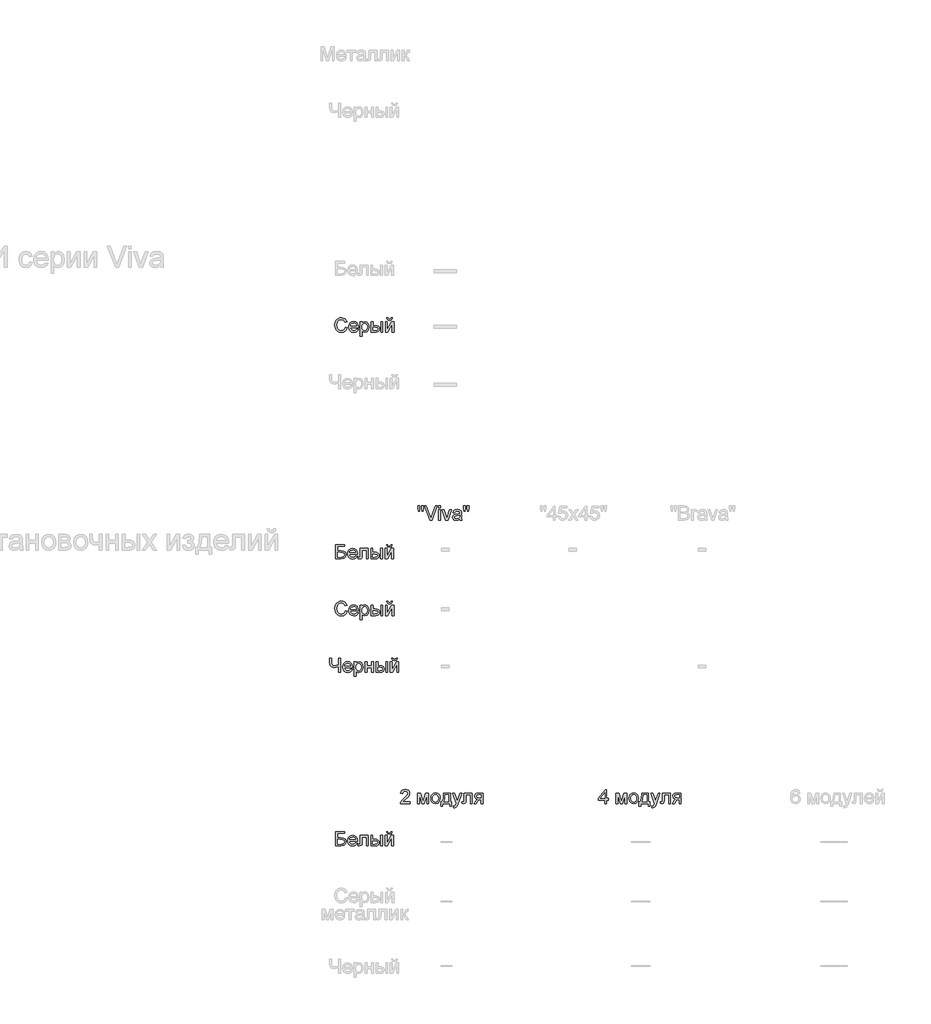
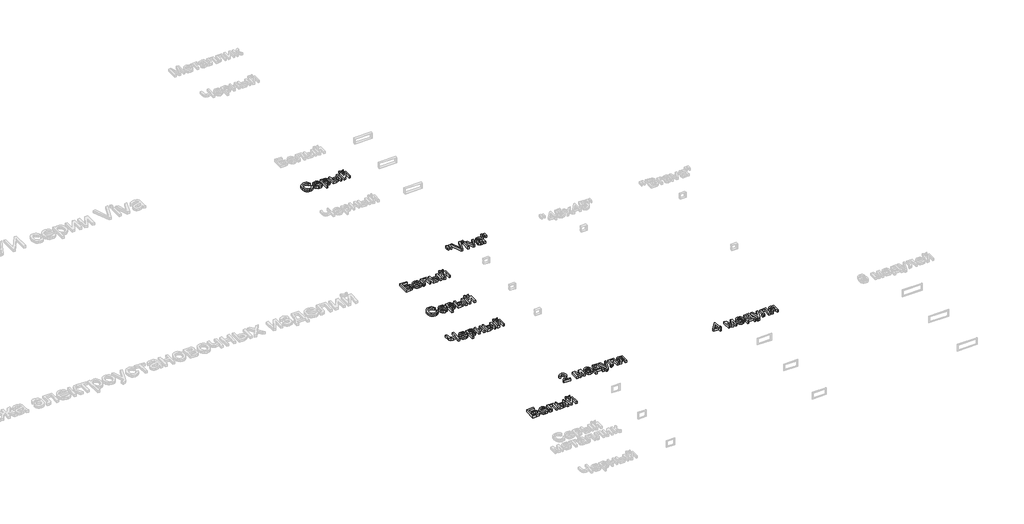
# One storey, part 20 of 48: 8 proxies.
"""IFC4 building model written with IfcOpenShell, lengths in millimetres."""

from ifc_helpers import new_model, si_unit, origin, origin_with_axes, place, context, project, spatial, polyline, outline, extrude, element, save

model = new_model("IFC4")

# Units and contexts
model_context = context("Model", 3, world=origin())
ifc_project = project(units=[si_unit("LENGTHUNIT", "METRE", prefix="MILLI")], contexts=[model_context])

# Site, building, storey
site = spatial("IfcSite", under=ifc_project)
building = spatial("IfcBuilding", under=site)
storey = spatial("IfcBuildingStorey", under=building, Name="Этаж 01", Elevation=0.0)

# Proxies
placement = place(None, origin())
element("IfcBuildingElementProxy", 1, Name="100 мм Arial", ObjectType="100 мм Arial", at=placement, inside=storey, context=model_context, shape_type="SweptSolid", body=[
    extrude(outline(polyline([(76590.4328092, -4006.6272921), (76602.9898479, -4009.8646536), (76597.1957065, -4024.49716), (76588.1028899, -4035.1871976), (76576.1589878, -4041.7263001), (76561.8115899, -4043.9060009), (76547.2465286, -4042.2566633), (76535.6797055, -4037.3086505), (76526.8137495, -4029.2336407), (76520.3512891, -4018.2033122), (76515.0905766, -3991.3479265), (76516.5774329, -3976.7000917), (76521.0380021, -3964.0510825), (76528.2392922, -3953.8025032), (76537.9483112, -3946.3559585), (76549.4630176, -3941.8218129), (76562.0813701, -3940.3104311), (76575.8493537, -3942.266337), (76587.2322358, -3948.1340548), (76595.874397, -3957.5518339), (76601.4202181, -3970.1579236), (76588.8631793, -3973.1500305), (76578.5624835, -3957.7112494), (76561.5908607, -3952.8674698), (76541.9459622, -3958.238547), (76530.8481887, -3972.6595212), (76527.6476153, -3991.3234011), (76531.4367999, -4012.9548624), (76543.2335492, -4026.7749627), (76560.5607912, -4031.3489621), (76571.0423623, -4029.791595), (76579.776494, -4025.1194937), (76586.3707788, -4017.381709), (76590.4328092, -4006.6272921)])), origin_with_axes(), (0.0, 0.0, 1.0), 20.0),
    extrude(outline(polyline([(76670.3367785, -4020.3615532), (76682.6485626, -4021.9311831), (76678.2125189, -4031.2079407), (76671.1338562, -4038.1425163), (76661.57199, -4042.4651297), (76649.6863359, -4043.9060009), (76634.9526619, -4041.4197317), (76623.6157651, -4033.9609243), (76616.3868839, -4022.0139565), (76613.9772569, -4006.0632063), (76616.4114094, -3989.5759616), (76623.713867, -3977.2457834), (76634.8974796, -3969.5570497), (76648.9750973, -3966.9941384), (76662.6143223, -3969.5509183), (76673.5128264, -3977.2212579), (76680.6589342, -3989.5269106), (76683.0409701, -4005.9896299), (76682.9673937, -4009.3741443), (76626.5342956, -4009.3741443), (76628.7078651, -4018.7735293), (76633.7570455, -4025.6835794), (76641.0441746, -4029.9326164), (76649.9315905, -4031.3489621), (76662.2433746, -4028.7247372), (76670.3367785, -4020.3615532)]), holes=[polyline([(76626.5342956, -3996.8171055), (76670.4839313, -3996.8171055), (76665.4562107, -3985.4372891), (76658.135359, -3981.0227052), (76648.9260464, -3979.5511772), (76633.4627399, -3984.247804), (76628.5975005, -3989.7384428), (76626.5342956, -3996.8171055)])]), origin_with_axes(), (0.0, 0.0, 1.0), 20.0),
    extrude(outline(polyline([(76695.5980089, -4070.5897083), (76695.5980089, -3968.5637683), (76708.1550476, -3968.5637683), (76708.1550476, -3980.8755524), (76716.8370627, -3970.4644919), (76728.5602356, -3966.9941384), (76744.4772633, -3971.8501808), (76754.876061, -3985.535391), (76758.3832027, -4004.8859839), (76754.4223399, -4025.2298583), (76742.9198962, -4039.0867468), (76727.0396567, -4043.9060009), (76716.1135614, -4040.6809021), (76708.1550476, -4032.5261845), (76708.1550476, -4070.5897083), (76695.5980089, -4070.5897083)]), holes=[polyline([(76708.1550476, -4006.0386809), (76709.5131453, -4017.2958699), (76713.5874384, -4025.1685446), (76719.5992434, -4029.8038577), (76726.7698766, -4031.3489621), (76734.0570058, -4029.7486754), (76740.2220949, -4024.9478154), (76744.4251467, -4016.7869665), (76745.8261639, -4005.1067131), (76744.4588692, -3993.9108378), (76740.3569849, -3985.9277985), (76734.354377, -3981.1453325), (76727.2849114, -3979.5511772), (76720.1878545, -3981.2465001), (76713.9553204, -3986.3324687), (76709.6051158, -3994.6496674), (76708.1550476, -4006.0386809)])]), origin_with_axes(), (0.0, 0.0, 1.0), 20.0),
    extrude(outline(polyline([(76841.5735845, -3968.5637683), (76854.1306233, -3968.5637683), (76854.1306233, -4042.3363711), (76841.5735845, -4042.3363711), (76841.5735845, -3968.5637683)])), origin_with_axes(), (0.0, 0.0, 1.0), 20.0),
    extrude(outline(polyline([(76772.5098713, -3968.5637683), (76785.0669101, -3968.5637683), (76785.0669101, -3995.2474757), (76800.5915303, -3995.2474757), (76814.010026, -3996.8201712), (76823.952037, -4001.5382578), (76830.1048633, -4009.0215907), (76832.1558055, -4018.8900252), (76830.4359571, -4027.875543), (76825.2764122, -4035.4569777), (76816.3399454, -4040.6165227), (76803.2893316, -4042.3363711), (76772.5098713, -4042.3363711), (76772.5098713, -3968.5637683)]), holes=[polyline([(76785.0669101, -4029.7793323), (76797.9673054, -4029.7793323), (76814.620097, -4027.1428447), (76819.5987667, -4018.9145507), (76815.907684, -4011.1890288), (76799.6105116, -4007.8045144), (76785.0669101, -4007.8045144), (76785.0669101, -4029.7793323)])]), origin_with_axes(), (0.0, 0.0, 1.0), 20.0),
    extrude(outline(polyline([(76913.7765575, -3941.8800609), (76923.1943365, -3941.8800609), (76917.0997581, -3955.847314), (76903.5739635, -3960.7156191), (76888.93226, -3955.8841022), (76882.3839605, -3941.8800609), (76891.8017396, -3941.8800609), (76895.3334068, -3948.9556579), (76902.445792, -3951.29784), (76910.2448903, -3949.0292343), (76913.7765575, -3941.8800609)])), origin_with_axes(), (0.0, 0.0, 1.0), 20.0),
    extrude(outline(polyline([(76872.9661815, -3968.5637683), (76885.5232202, -3968.5637683), (76885.5232202, -4024.8251881), (76916.3762569, -3968.5637683), (76932.6121156, -3968.5637683), (76932.6121156, -4042.3363711), (76920.0550768, -4042.3363711), (76920.0550768, -3986.4183078), (76889.3982439, -4042.3363711), (76872.9661815, -4042.3363711), (76872.9661815, -3968.5637683)])), origin_with_axes(), (0.0, 0.0, 1.0), 20.0),
])
element("IfcBuildingElementProxy", 2, Name="100 мм Arial", ObjectType="100 мм Arial", at=placement, inside=storey, context=model_context, shape_type="SweptSolid", body=[
    extrude(outline(polyline([(76522.1539109, -5541.8800609), (76584.9391047, -5541.8800609), (76584.9391047, -5554.4370997), (76534.7109496, -5554.4370997), (76534.7109496, -5584.2600667), (76558.2308719, -5584.2600667), (76578.9548909, -5586.8107152), (76591.2912005, -5596.4492235), (76595.9265136, -5612.9303369), (76592.6278384, -5627.2409465), (76582.7808637, -5638.1179908), (76560.4872148, -5642.3363711), (76522.1539109, -5642.3363711), (76522.1539109, -5541.8800609)]), holes=[polyline([(76534.7109496, -5629.7793323), (76561.6153862, -5629.7793323), (76577.9248213, -5625.6345285), (76582.0083115, -5620.4535237), (76583.3694749, -5613.200117), (76580.2547406, -5603.365405), (76571.5849883, -5598.1169552), (76552.663591, -5596.8171055), (76534.7109496, -5596.8171055), (76534.7109496, -5629.7793323)])]), origin_with_axes(), (0.0, 0.0, 1.0), 20.0),
    extrude(outline(polyline([(76663.2734442, -5620.3615532), (76675.5852283, -5621.9311831), (76671.1491846, -5631.2079407), (76664.0705219, -5638.1425163), (76654.5086557, -5642.4651297), (76642.6230015, -5643.9060009), (76627.8893276, -5641.4197317), (76616.5524308, -5633.9609243), (76609.3235496, -5622.0139565), (76606.9139225, -5606.0632063), (76609.3480751, -5589.5759616), (76616.6505327, -5577.2457834), (76627.8341453, -5569.5570497), (76641.911763, -5566.9941384), (76655.550988, -5569.5509183), (76666.4494921, -5577.2212579), (76673.5955999, -5589.5269106), (76675.9776358, -5605.9896299), (76675.9040594, -5609.3741443), (76619.4709613, -5609.3741443), (76621.6445308, -5618.7735293), (76626.6937112, -5625.6835794), (76633.9808403, -5629.9326164), (76642.8682562, -5631.3489621), (76655.1800403, -5628.7247372), (76663.2734442, -5620.3615532)]), holes=[polyline([(76619.4709613, -5596.8171055), (76663.420597, -5596.8171055), (76658.3928764, -5585.4372891), (76651.0720247, -5581.0227052), (76641.8627121, -5579.5511772), (76626.3994056, -5584.247804), (76621.5341662, -5589.7384428), (76619.4709613, -5596.8171055)])]), origin_with_axes(), (0.0, 0.0, 1.0), 20.0),
    extrude(outline(polyline([(76694.8131939, -5568.5637683), (76751.3198684, -5568.5637683), (76751.3198684, -5642.2627947), (76738.7628296, -5642.2627947), (76738.7628296, -5581.1208071), (76707.3702327, -5581.1208071), (76707.3702327, -5616.3148513), (76706.5241041, -5632.55071), (76701.8765282, -5639.4055778), (76690.8891193, -5642.3363711), (76680.6865253, -5641.6987089), (76680.6865253, -5629.7793323), (76686.3028571, -5629.7793323), (76691.9805026, -5629.0067801), (76694.2491082, -5626.5542335), (76694.8131939, -5615.6036127), (76694.8131939, -5568.5637683)])), origin_with_axes(), (0.0, 0.0, 1.0), 20.0),
    extrude(outline(polyline([(76839.2191398, -5568.5637683), (76851.7761785, -5568.5637683), (76851.7761785, -5642.3363711), (76839.2191398, -5642.3363711), (76839.2191398, -5568.5637683)])), origin_with_axes(), (0.0, 0.0, 1.0), 20.0),
    extrude(outline(polyline([(76770.1554265, -5568.5637683), (76782.7124653, -5568.5637683), (76782.7124653, -5595.2474757), (76798.2370855, -5595.2474757), (76811.6555813, -5596.8201712), (76821.5975922, -5601.5382578), (76827.7504186, -5609.0215907), (76829.8013607, -5618.8900252), (76828.0815124, -5627.875543), (76822.9219674, -5635.4569777), (76813.9855006, -5640.6165227), (76800.9348868, -5642.3363711), (76770.1554265, -5642.3363711), (76770.1554265, -5568.5637683)]), holes=[polyline([(76782.7124653, -5629.7793323), (76795.6128606, -5629.7793323), (76812.2656523, -5627.1428447), (76817.2443219, -5618.9145507), (76813.5532392, -5611.1890288), (76797.2560669, -5607.8045144), (76782.7124653, -5607.8045144), (76782.7124653, -5629.7793323)])]), origin_with_axes(), (0.0, 0.0, 1.0), 20.0),
    extrude(outline(polyline([(76870.6117367, -5568.5637683), (76883.1687755, -5568.5637683), (76883.1687755, -5624.8251881), (76914.0218121, -5568.5637683), (76930.2576708, -5568.5637683), (76930.2576708, -5642.3363711), (76917.7006321, -5642.3363711), (76917.7006321, -5586.4183078), (76887.0437991, -5642.3363711), (76870.6117367, -5642.3363711), (76870.6117367, -5568.5637683)])), origin_with_axes(), (0.0, 0.0, 1.0), 20.0),
    extrude(outline(polyline([(76911.4221127, -5541.8800609), (76920.8398918, -5541.8800609), (76914.7453134, -5555.847314), (76901.2195187, -5560.7156191), (76886.5778153, -5555.8841022), (76880.0295158, -5541.8800609), (76889.4472948, -5541.8800609), (76892.978962, -5548.9556579), (76900.0913472, -5551.29784), (76907.8904455, -5549.0292343), (76911.4221127, -5541.8800609)])), origin_with_axes(), (0.0, 0.0, 1.0), 20.0),
])
element("IfcBuildingElementProxy", 3, Name="100 мм Arial", ObjectType="100 мм Arial", at=placement, inside=storey, context=model_context, shape_type="SweptSolid", body=[
    extrude(outline(polyline([(76590.4328092, -6006.6272921), (76602.9898479, -6009.8646536), (76597.1957065, -6024.49716), (76588.1028899, -6035.1871976), (76576.1589878, -6041.7263001), (76561.8115899, -6043.9060009), (76547.2465286, -6042.2566633), (76535.6797055, -6037.3086505), (76526.8137495, -6029.2336407), (76520.3512891, -6018.2033122), (76515.0905766, -5991.3479265), (76516.5774329, -5976.7000917), (76521.0380021, -5964.0510825), (76528.2392922, -5953.8025032), (76537.9483112, -5946.3559585), (76549.4630176, -5941.8218129), (76562.0813701, -5940.3104311), (76575.8493537, -5942.266337), (76587.2322358, -5948.1340548), (76595.874397, -5957.5518339), (76601.4202181, -5970.1579236), (76588.8631793, -5973.1500305), (76578.5624835, -5957.7112494), (76561.5908607, -5952.8674698), (76541.9459622, -5958.238547), (76530.8481887, -5972.6595212), (76527.6476153, -5991.3234011), (76531.4367999, -6012.9548624), (76543.2335492, -6026.7749627), (76560.5607912, -6031.3489621), (76571.0423623, -6029.791595), (76579.776494, -6025.1194937), (76586.3707788, -6017.381709), (76590.4328092, -6006.6272921)])), origin_with_axes(), (0.0, 0.0, 1.0), 20.0),
    extrude(outline(polyline([(76670.3367785, -6020.3615532), (76682.6485626, -6021.9311831), (76678.2125189, -6031.2079407), (76671.1338562, -6038.1425163), (76661.57199, -6042.4651297), (76649.6863359, -6043.9060009), (76634.9526619, -6041.4197317), (76623.6157651, -6033.9609243), (76616.3868839, -6022.0139565), (76613.9772569, -6006.0632063), (76616.4114094, -5989.5759616), (76623.713867, -5977.2457834), (76634.8974796, -5969.5570497), (76648.9750973, -5966.9941384), (76662.6143223, -5969.5509183), (76673.5128264, -5977.2212579), (76680.6589342, -5989.5269106), (76683.0409701, -6005.9896299), (76682.9673937, -6009.3741443), (76626.5342956, -6009.3741443), (76628.7078651, -6018.7735293), (76633.7570455, -6025.6835794), (76641.0441746, -6029.9326164), (76649.9315905, -6031.3489621), (76662.2433746, -6028.7247372), (76670.3367785, -6020.3615532)]), holes=[polyline([(76626.5342956, -5996.8171055), (76670.4839313, -5996.8171055), (76665.4562107, -5985.4372891), (76658.135359, -5981.0227052), (76648.9260464, -5979.5511772), (76633.4627399, -5984.247804), (76628.5975005, -5989.7384428), (76626.5342956, -5996.8171055)])]), origin_with_axes(), (0.0, 0.0, 1.0), 20.0),
    extrude(outline(polyline([(76695.5980089, -6070.5897083), (76695.5980089, -5968.5637683), (76708.1550476, -5968.5637683), (76708.1550476, -5980.8755524), (76716.8370627, -5970.4644919), (76728.5602356, -5966.9941384), (76744.4772633, -5971.8501808), (76754.876061, -5985.535391), (76758.3832027, -6004.8859839), (76754.4223399, -6025.2298583), (76742.9198962, -6039.0867468), (76727.0396567, -6043.9060009), (76716.1135614, -6040.6809021), (76708.1550476, -6032.5261845), (76708.1550476, -6070.5897083), (76695.5980089, -6070.5897083)]), holes=[polyline([(76708.1550476, -6006.0386809), (76709.5131453, -6017.2958699), (76713.5874384, -6025.1685446), (76719.5992434, -6029.8038577), (76726.7698766, -6031.3489621), (76734.0570058, -6029.7486754), (76740.2220949, -6024.9478154), (76744.4251467, -6016.7869665), (76745.8261639, -6005.1067131), (76744.4588692, -5993.9108378), (76740.3569849, -5985.9277985), (76734.354377, -5981.1453325), (76727.2849114, -5979.5511772), (76720.1878545, -5981.2465001), (76713.9553204, -5986.3324687), (76709.6051158, -5994.6496674), (76708.1550476, -6006.0386809)])]), origin_with_axes(), (0.0, 0.0, 1.0), 20.0),
    extrude(outline(polyline([(76841.5735845, -5968.5637683), (76854.1306233, -5968.5637683), (76854.1306233, -6042.3363711), (76841.5735845, -6042.3363711), (76841.5735845, -5968.5637683)])), origin_with_axes(), (0.0, 0.0, 1.0), 20.0),
    extrude(outline(polyline([(76772.5098713, -5968.5637683), (76785.0669101, -5968.5637683), (76785.0669101, -5995.2474757), (76800.5915303, -5995.2474757), (76814.010026, -5996.8201712), (76823.952037, -6001.5382578), (76830.1048633, -6009.0215907), (76832.1558055, -6018.8900252), (76830.4359571, -6027.875543), (76825.2764122, -6035.4569777), (76816.3399454, -6040.6165227), (76803.2893316, -6042.3363711), (76772.5098713, -6042.3363711), (76772.5098713, -5968.5637683)]), holes=[polyline([(76785.0669101, -6029.7793323), (76797.9673054, -6029.7793323), (76814.620097, -6027.1428447), (76819.5987667, -6018.9145507), (76815.907684, -6011.1890288), (76799.6105116, -6007.8045144), (76785.0669101, -6007.8045144), (76785.0669101, -6029.7793323)])]), origin_with_axes(), (0.0, 0.0, 1.0), 20.0),
    extrude(outline(polyline([(76913.7765575, -5941.8800609), (76923.1943365, -5941.8800609), (76917.0997581, -5955.847314), (76903.5739635, -5960.7156191), (76888.93226, -5955.8841022), (76882.3839605, -5941.8800609), (76891.8017396, -5941.8800609), (76895.3334068, -5948.9556579), (76902.445792, -5951.29784), (76910.2448903, -5949.0292343), (76913.7765575, -5941.8800609)])), origin_with_axes(), (0.0, 0.0, 1.0), 20.0),
    extrude(outline(polyline([(76872.9661815, -5968.5637683), (76885.5232202, -5968.5637683), (76885.5232202, -6024.8251881), (76916.3762569, -5968.5637683), (76932.6121156, -5968.5637683), (76932.6121156, -6042.3363711), (76920.0550768, -6042.3363711), (76920.0550768, -5986.4183078), (76889.3982439, -6042.3363711), (76872.9661815, -6042.3363711), (76872.9661815, -5968.5637683)])), origin_with_axes(), (0.0, 0.0, 1.0), 20.0),
])
element("IfcBuildingElementProxy", 4, Name="100 мм Arial", ObjectType="100 мм Arial", at=placement, inside=storey, context=model_context, shape_type="SweptSolid", body=[
    extrude(outline(polyline([(76555.9009525, -6442.3363711), (76543.3439138, -6442.3363711), (76543.3439138, -6402.1146062), (76512.2456225, -6409.3741443), (76493.8883109, -6404.4077373), (76483.2442585, -6391.8016476), (76480.5587199, -6371.8011298), (76480.5587199, -6341.8800609), (76493.1157587, -6341.8800609), (76493.1157587, -6370.1088727), (76494.6240749, -6383.686784), (76499.1490234, -6391.6544948), (76513.643574, -6396.8171055), (76543.3439138, -6390.5876371), (76543.3439138, -6341.8800609), (76555.9009525, -6341.8800609), (76555.9009525, -6442.3363711)])), origin_with_axes(), (0.0, 0.0, 1.0), 20.0),
    extrude(outline(polyline([(76627.9567727, -6420.3615532), (76640.2685568, -6421.9311831), (76635.8325131, -6431.2079407), (76628.7538503, -6438.1425163), (76619.1919841, -6442.4651297), (76607.30633, -6443.9060009), (76592.5726561, -6441.4197317), (76581.2357593, -6433.9609243), (76574.0068781, -6422.0139565), (76571.597251, -6406.0632063), (76574.0314035, -6389.5759616), (76581.3338611, -6377.2457834), (76592.5174738, -6369.5570497), (76606.5950915, -6366.9941384), (76620.2343165, -6369.5509183), (76631.1328206, -6377.2212579), (76638.2789283, -6389.5269106), (76640.6609642, -6405.9896299), (76640.5873878, -6409.3741443), (76584.1542898, -6409.3741443), (76586.3278592, -6418.7735293), (76591.3770396, -6425.6835794), (76598.6641688, -6429.9326164), (76607.5515847, -6431.3489621), (76619.8633688, -6428.7247372), (76627.9567727, -6420.3615532)]), holes=[polyline([(76584.1542898, -6396.8171055), (76628.1039255, -6396.8171055), (76623.0762049, -6385.4372891), (76615.7553532, -6381.0227052), (76606.5460406, -6379.5511772), (76591.082734, -6384.247804), (76586.2174946, -6389.7384428), (76584.1542898, -6396.8171055)])]), origin_with_axes(), (0.0, 0.0, 1.0), 20.0),
    extrude(outline(polyline([(76653.218003, -6470.5897083), (76653.218003, -6368.5637683), (76665.7750418, -6368.5637683), (76665.7750418, -6380.8755524), (76674.4570569, -6370.4644919), (76686.1802298, -6366.9941384), (76702.0972574, -6371.8501808), (76712.4960552, -6385.535391), (76716.0031969, -6404.8859839), (76712.042334, -6425.2298583), (76700.5398903, -6439.0867468), (76684.6596509, -6443.9060009), (76673.7335556, -6440.6809021), (76665.7750418, -6432.5261845), (76665.7750418, -6470.5897083), (76653.218003, -6470.5897083)]), holes=[polyline([(76665.7750418, -6406.0386809), (76667.1331395, -6417.2958699), (76671.2074326, -6425.1685446), (76677.2192375, -6429.8038577), (76684.3898707, -6431.3489621), (76691.6769999, -6429.7486754), (76697.842089, -6424.9478154), (76702.0451408, -6416.7869665), (76703.4461581, -6405.1067131), (76702.0788633, -6393.9108378), (76697.9769791, -6385.9277985), (76691.9743712, -6381.1453325), (76684.9049055, -6379.5511772), (76677.8078487, -6381.2465001), (76671.5753146, -6386.3324687), (76667.22511, -6394.6496674), (76665.7750418, -6406.0386809)])]), origin_with_axes(), (0.0, 0.0, 1.0), 20.0),
    extrude(outline(polyline([(76730.1298655, -6368.5637683), (76742.6869042, -6368.5637683), (76742.6869042, -6396.8171055), (76775.649131, -6396.8171055), (76775.649131, -6368.5637683), (76788.2061698, -6368.5637683), (76788.2061698, -6442.3363711), (76775.649131, -6442.3363711), (76775.649131, -6409.3741443), (76742.6869042, -6409.3741443), (76742.6869042, -6442.3363711), (76730.1298655, -6442.3363711), (76730.1298655, -6368.5637683)])), origin_with_axes(), (0.0, 0.0, 1.0), 20.0),
    extrude(outline(polyline([(76876.1054412, -6368.5637683), (76888.6624799, -6368.5637683), (76888.6624799, -6442.3363711), (76876.1054412, -6442.3363711), (76876.1054412, -6368.5637683)])), origin_with_axes(), (0.0, 0.0, 1.0), 20.0),
    extrude(outline(polyline([(76807.0417279, -6368.5637683), (76819.5987667, -6368.5637683), (76819.5987667, -6395.2474757), (76835.1233869, -6395.2474757), (76848.5418827, -6396.8201712), (76858.4838936, -6401.5382578), (76864.63672, -6409.0215907), (76866.6876621, -6418.8900252), (76864.9678137, -6427.875543), (76859.8082688, -6435.4569777), (76850.871802, -6440.6165227), (76837.8211882, -6442.3363711), (76807.0417279, -6442.3363711), (76807.0417279, -6368.5637683)]), holes=[polyline([(76819.5987667, -6429.7793323), (76832.499162, -6429.7793323), (76849.1519536, -6427.1428447), (76854.1306233, -6418.9145507), (76850.4395406, -6411.1890288), (76834.1423682, -6407.8045144), (76819.5987667, -6407.8045144), (76819.5987667, -6429.7793323)])]), origin_with_axes(), (0.0, 0.0, 1.0), 20.0),
    extrude(outline(polyline([(76907.4980381, -6368.5637683), (76920.0550768, -6368.5637683), (76920.0550768, -6424.8251881), (76950.9081135, -6368.5637683), (76967.1439722, -6368.5637683), (76967.1439722, -6442.3363711), (76954.5869335, -6442.3363711), (76954.5869335, -6386.4183078), (76923.9301005, -6442.3363711), (76907.4980381, -6442.3363711), (76907.4980381, -6368.5637683)])), origin_with_axes(), (0.0, 0.0, 1.0), 20.0),
    extrude(outline(polyline([(76948.3084141, -6341.8800609), (76957.7261931, -6341.8800609), (76951.6316148, -6355.847314), (76938.1058201, -6360.7156191), (76923.4641167, -6355.8841022), (76916.9158171, -6341.8800609), (76926.3335962, -6341.8800609), (76929.8652634, -6348.9556579), (76936.9776486, -6351.29784), (76944.7767469, -6349.0292343), (76948.3084141, -6341.8800609)])), origin_with_axes(), (0.0, 0.0, 1.0), 20.0),
])
element("IfcBuildingElementProxy", 5, Name="100 мм Arial", ObjectType="100 мм Arial", at=placement, inside=storey, context=model_context, shape_type="SweptSolid", body=[
    extrude(outline(polyline([(77106.1885746, -5304.3365474), (77103.1228913, -5284.9369035), (77103.1228913, -5268.235061), (77115.6799301, -5268.235061), (77115.6799301, -5284.9369035), (77112.9330779, -5304.3365474), (77106.1885746, -5304.3365474)])), origin_with_axes(), (0.0, 0.0, 1.0), 20.0),
    extrude(outline(polyline([(77131.2290758, -5304.3365474), (77128.2369689, -5284.9369035), (77128.2369689, -5268.235061), (77140.7940076, -5268.235061), (77140.7940076, -5284.9369035), (77137.8509517, -5304.3365474), (77131.2290758, -5304.3365474)])), origin_with_axes(), (0.0, 0.0, 1.0), 20.0),
    extrude(outline(polyline([(77187.7357502, -5368.6913711), (77147.7592401, -5268.235061), (77161.1991956, -5268.235061), (77187.9564794, -5340.6097121), (77193.3766075, -5356.9191473), (77198.7231591, -5340.6097121), (77225.5540193, -5268.235061), (77238.9939749, -5268.235061), (77200.7097219, -5368.6913711), (77187.7357502, -5368.6913711)])), origin_with_axes(), (0.0, 0.0, 1.0), 20.0),
    extrude(outline(polyline([(77249.098467, -5280.7920997), (77249.098467, -5268.235061), (77261.6555058, -5268.235061), (77261.6555058, -5280.7920997), (77249.098467, -5280.7920997)])), origin_with_axes(), (0.0, 0.0, 1.0), 20.0),
    extrude(outline(polyline([(77249.098467, -5368.6913711), (77249.098467, -5294.9187683), (77261.6555058, -5294.9187683), (77261.6555058, -5368.6913711), (77249.098467, -5368.6913711)])), origin_with_axes(), (0.0, 0.0, 1.0), 20.0),
    extrude(outline(polyline([(77298.5908581, -5368.6913711), (77272.6429147, -5294.9187683), (77285.9357175, -5294.9187683), (77301.6565414, -5339.1136587), (77306.3899564, -5353.9760913), (77311.0252695, -5339.9475246), (77326.8441953, -5294.9187683), (77340.1369981, -5294.9187683), (77314.5078858, -5368.6913711), (77298.5908581, -5368.6913711)])), origin_with_axes(), (0.0, 0.0, 1.0), 20.0),
    extrude(outline(polyline([(77398.2133024, -5359.273592), (77386.0364084, -5367.7839289), (77372.5841901, -5370.261001), (77362.0903561, -5368.7710789), (77354.3495058, -5364.3013126), (77349.5762369, -5357.5138898), (77347.9851473, -5349.070998), (77350.388643, -5339.1381842), (77356.7039506, -5331.9276971), (77365.4963303, -5327.8074187), (77376.3611119, -5325.9189578), (77398.139726, -5321.6024757), (77398.2133024, -5318.8065726), (77394.7552116, -5309.5359463), (77380.8737977, -5305.9061773), (77368.1696061, -5308.3219357), (77362.1118159, -5316.8935862), (77349.5547772, -5315.3239563), (77354.987168, -5303.0612232), (77365.9255259, -5295.8752615), (77382.4924785, -5293.3491385), (77397.7105303, -5295.5809559), (77406.3067063, -5301.185025), (77410.1572045, -5309.7076246), (77410.7703412, -5320.6950335), (77410.7703412, -5336.3177555), (77411.4080033, -5358.1331579), (77413.9096009, -5368.6913711), (77401.3525621, -5368.6913711), (77398.2133024, -5359.273592)]), holes=[polyline([(77398.2133024, -5334.1595145), (77377.9552672, -5338.0100127), (77367.1517993, -5340.0456264), (77362.2589687, -5343.3565644), (77360.5421861, -5348.1880812), (77364.2823197, -5354.9816354), (77375.2574659, -5357.7039622), (77387.9616575, -5354.6995926), (77396.1531632, -5347.4277918), (77398.139726, -5337.7157071), (77398.2133024, -5334.1595145)])]), origin_with_axes(), (0.0, 0.0, 1.0), 20.0),
    extrude(outline(polyline([(77427.9626931, -5304.3365474), (77424.8970098, -5284.9369035), (77424.8970098, -5268.235061), (77437.4540485, -5268.235061), (77437.4540485, -5284.9369035), (77434.7071963, -5304.3365474), (77427.9626931, -5304.3365474)])), origin_with_axes(), (0.0, 0.0, 1.0), 20.0),
    extrude(outline(polyline([(77453.0031942, -5304.3365474), (77450.0110873, -5284.9369035), (77450.0110873, -5268.235061), (77462.5681261, -5268.235061), (77462.5681261, -5284.9369035), (77459.6250701, -5304.3365474), (77453.0031942, -5304.3365474)])), origin_with_axes(), (0.0, 0.0, 1.0), 20.0),
])
element("IfcBuildingElementProxy", 6, Name="100 мм Arial", ObjectType="100 мм Arial", at=placement, inside=storey, context=model_context, shape_type="SweptSolid", body=[
    extrude(outline(polyline([(76522.1539109, -7566.7847001), (76584.9391047, -7566.7847001), (76584.9391047, -7579.3417388), (76534.7109496, -7579.3417388), (76534.7109496, -7609.1647059), (76558.2308719, -7609.1647059), (76578.9548909, -7611.7153544), (76591.2912005, -7621.3538627), (76595.9265136, -7637.8349761), (76592.6278384, -7652.1455857), (76582.7808637, -7663.02263), (76560.4872148, -7667.2410102), (76522.1539109, -7667.2410102), (76522.1539109, -7566.7847001)]), holes=[polyline([(76534.7109496, -7654.6839714), (76561.6153862, -7654.6839714), (76577.9248213, -7650.5391676), (76582.0083115, -7645.3581629), (76583.3694749, -7638.1047562), (76580.2547406, -7628.2700442), (76571.5849883, -7623.0215944), (76552.663591, -7621.7217447), (76534.7109496, -7621.7217447), (76534.7109496, -7654.6839714)])]), origin_with_axes(), (0.0, 0.0, 1.0), 20.0),
    extrude(outline(polyline([(76663.2734442, -7645.2661924), (76675.5852283, -7646.8358222), (76671.1491846, -7656.1125799), (76664.0705219, -7663.0471555), (76654.5086557, -7667.3697689), (76642.6230015, -7668.8106401), (76627.8893276, -7666.3243709), (76616.5524308, -7658.8655635), (76609.3235496, -7646.9185957), (76606.9139225, -7630.9678455), (76609.3480751, -7614.4806007), (76616.6505327, -7602.1504225), (76627.8341453, -7594.4616888), (76641.911763, -7591.8987776), (76655.550988, -7594.4555575), (76666.4494921, -7602.1258971), (76673.5955999, -7614.4315498), (76675.9776358, -7630.8942691), (76675.9040594, -7634.2787834), (76619.4709613, -7634.2787834), (76621.6445308, -7643.6781684), (76626.6937112, -7650.5882186), (76633.9808403, -7654.8372556), (76642.8682562, -7656.2536013), (76655.1800403, -7653.6293764), (76663.2734442, -7645.2661924)]), holes=[polyline([(76619.4709613, -7621.7217447), (76663.420597, -7621.7217447), (76658.3928764, -7610.3419283), (76651.0720247, -7605.9273444), (76641.8627121, -7604.4558164), (76626.3994056, -7609.1524432), (76621.5341662, -7614.643082), (76619.4709613, -7621.7217447)])]), origin_with_axes(), (0.0, 0.0, 1.0), 20.0),
    extrude(outline(polyline([(76694.8131939, -7593.4684074), (76751.3198684, -7593.4684074), (76751.3198684, -7667.1674338), (76738.7628296, -7667.1674338), (76738.7628296, -7606.0254462), (76707.3702327, -7606.0254462), (76707.3702327, -7641.2194904), (76706.5241041, -7657.4553491), (76701.8765282, -7664.310217), (76690.8891193, -7667.2410102), (76680.6865253, -7666.6033481), (76680.6865253, -7654.6839714), (76686.3028571, -7654.6839714), (76691.9805026, -7653.9114193), (76694.2491082, -7651.4588726), (76694.8131939, -7640.5082519), (76694.8131939, -7593.4684074)])), origin_with_axes(), (0.0, 0.0, 1.0), 20.0),
    extrude(outline(polyline([(76839.2191398, -7593.4684074), (76851.7761785, -7593.4684074), (76851.7761785, -7667.2410102), (76839.2191398, -7667.2410102), (76839.2191398, -7593.4684074)])), origin_with_axes(), (0.0, 0.0, 1.0), 20.0),
    extrude(outline(polyline([(76770.1554265, -7593.4684074), (76782.7124653, -7593.4684074), (76782.7124653, -7620.1521148), (76798.2370855, -7620.1521148), (76811.6555813, -7621.7248104), (76821.5975922, -7626.442897), (76827.7504186, -7633.9262299), (76829.8013607, -7643.7946644), (76828.0815124, -7652.7801821), (76822.9219674, -7660.3616169), (76813.9855006, -7665.5211619), (76800.9348868, -7667.2410102), (76770.1554265, -7667.2410102), (76770.1554265, -7593.4684074)]), holes=[polyline([(76782.7124653, -7654.6839714), (76795.6128606, -7654.6839714), (76812.2656523, -7652.0474838), (76817.2443219, -7643.8191899), (76813.5532392, -7636.093668), (76797.2560669, -7632.7091536), (76782.7124653, -7632.7091536), (76782.7124653, -7654.6839714)])]), origin_with_axes(), (0.0, 0.0, 1.0), 20.0),
    extrude(outline(polyline([(76870.6117367, -7593.4684074), (76883.1687755, -7593.4684074), (76883.1687755, -7649.7298272), (76914.0218121, -7593.4684074), (76930.2576708, -7593.4684074), (76930.2576708, -7667.2410102), (76917.7006321, -7667.2410102), (76917.7006321, -7611.3229469), (76887.0437991, -7667.2410102), (76870.6117367, -7667.2410102), (76870.6117367, -7593.4684074)])), origin_with_axes(), (0.0, 0.0, 1.0), 20.0),
    extrude(outline(polyline([(76911.4221127, -7566.7847001), (76920.8398918, -7566.7847001), (76914.7453134, -7580.7519531), (76901.2195187, -7585.6202582), (76886.5778153, -7580.7887413), (76880.0295158, -7566.7847001), (76889.4472948, -7566.7847001), (76892.978962, -7573.8602971), (76900.0913472, -7576.2024791), (76907.8904455, -7573.9338735), (76911.4221127, -7566.7847001)])), origin_with_axes(), (0.0, 0.0, 1.0), 20.0),
])
element("IfcBuildingElementProxy", 7, Name="100 мм Arial", ObjectType="100 мм Arial", at=placement, inside=storey, context=model_context, shape_type="SweptSolid", body=[
    extrude(outline(polyline([(77045.8481443, -7355.9173564), (77045.8481443, -7368.4743951), (76979.9236908, -7368.4743951), (76981.2725914, -7359.8169055), (76988.9000115, -7346.4873146), (77004.6208354, -7331.9314503), (77026.3013476, -7311.0112275), (77031.7214757, -7296.786457), (77026.607916, -7285.2717506), (77013.2537995, -7280.5751238), (76999.3355974, -7285.161386), (76994.0503594, -7297.8410521), (76981.4933206, -7296.2714222), (76984.5375441, -7284.125185), (76991.1195662, -7275.2530976), (77000.8960302, -7269.8268381), (77013.5235797, -7268.018085), (77026.2430997, -7270.0291732), (77036.0011696, -7276.0624379), (77042.2091783, -7285.0755468), (77044.2785145, -7296.0261676), (77042.046697, -7307.9332815), (77034.6277435, -7320.2450656), (77016.6383139, -7337.4496802), (77002.1928142, -7349.5284724), (76996.5274315, -7355.9173564), (77045.8481443, -7355.9173564)])), origin_with_axes(), (0.0, 0.0, 1.0), 20.0),
    extrude(outline(polyline([(77100.7851889, -7294.7017924), (77122.3921248, -7294.7017924), (77139.0449164, -7353.7591153), (77156.9975578, -7294.7017924), (77177.6970514, -7294.7017924), (77177.6970514, -7368.4743951), (77165.1400126, -7368.4743951), (77165.1400126, -7309.0737156), (77147.0892694, -7368.4743951), (77130.608156, -7368.4743951), (77113.3422277, -7306.2287616), (77113.3422277, -7368.4743951), (77100.7851889, -7368.4743951), (77100.7851889, -7294.7017924)])), origin_with_axes(), (0.0, 0.0, 1.0), 20.0),
    extrude(outline(polyline([(77193.3933499, -7331.5880938), (77196.1095453, -7313.8009993), (77204.2581314, -7301.2991428), (77214.3258354, -7295.1739076), (77226.3801021, -7293.1321625), (77239.5717373, -7295.6184317), (77250.1084908, -7303.0772391), (77257.0154752, -7314.9199737), (77259.3178034, -7330.5580242), (77255.246576, -7352.900724), (77243.388513, -7365.5436019), (77226.3801021, -7370.044025), (77213.0290513, -7367.5669529), (77202.5045606, -7360.1357366), (77195.6711525, -7348.0446817), (77193.3933499, -7331.5880938)]), holes=[polyline([(77205.9503886, -7331.5635683), (77207.4035225, -7342.9280563), (77211.7629241, -7351.0245258), (77218.3234864, -7355.8713711), (77226.3801021, -7357.4869862), (77234.3999296, -7355.8621741), (77240.9482291, -7350.9877376), (77245.3076307, -7342.7839691), (77246.7607646, -7331.1711608), (77245.2984337, -7320.1377667), (77240.9114409, -7312.1516617), (77234.3539443, -7307.3048164), (77226.3801021, -7305.6892013), (77218.3234864, -7307.298685), (77211.7629241, -7312.1271362), (77207.4035225, -7320.2052117), (77205.9503886, -7331.5635683)])]), origin_with_axes(), (0.0, 0.0, 1.0), 20.0),
    extrude(outline(polyline([(77284.4318809, -7294.7017924), (77331.5207763, -7294.7017924), (77331.5207763, -7355.9173564), (77340.9385554, -7355.9173564), (77340.9385554, -7388.8795831), (77328.3815166, -7388.8795831), (77328.3815166, -7368.4743951), (77276.5837317, -7368.4743951), (77276.5837317, -7388.8795831), (77264.0266929, -7388.8795831), (77264.0266929, -7355.9173564), (77271.8748422, -7355.9173564), (77281.5746641, -7331.9682385), (77284.4318809, -7294.7017924)]), holes=[polyline([(77295.4192899, -7307.2588311), (77292.4762339, -7335.8677876), (77286.0015108, -7355.9173564), (77318.9637375, -7355.9173564), (77318.9637375, -7307.2588311), (77295.4192899, -7307.2588311)])]), origin_with_axes(), (0.0, 0.0, 1.0), 20.0),
    extrude(outline(polyline([(77355.065224, -7396.7277324), (77353.4955942, -7384.6366775), (77359.8722154, -7385.7403234), (77365.8319037, -7384.3546346), (77369.4861982, -7380.4918736), (77372.9197635, -7371.2457728), (77373.9007822, -7368.204615), (77347.2170748, -7294.7017924), (77360.4608266, -7294.7017924), (77374.6120207, -7335.6593212), (77379.5416394, -7352.0423327), (77384.4712581, -7337.5723075), (77399.0148597, -7294.7017924), (77412.1605097, -7294.7017924), (77386.4823464, -7370.2402287), (77379.8114195, -7386.6232402), (77372.527356, -7395.4769336), (77362.741695, -7398.2973622), (77355.065224, -7396.7277324)])), origin_with_axes(), (0.0, 0.0, 1.0), 20.0),
    extrude(outline(polyline([(77428.8378268, -7294.7017924), (77485.3445012, -7294.7017924), (77485.3445012, -7368.4008187), (77472.7874625, -7368.4008187), (77472.7874625, -7307.2588311), (77441.3948655, -7307.2588311), (77441.3948655, -7342.4528753), (77440.5487369, -7358.6887341), (77435.9011611, -7365.5436019), (77424.9137522, -7368.4743951), (77414.7111582, -7367.836733), (77414.7111582, -7355.9173564), (77420.3274899, -7355.9173564), (77426.0051354, -7355.1448042), (77428.273741, -7352.6922575), (77428.8378268, -7341.7416368), (77428.8378268, -7294.7017924)])), origin_with_axes(), (0.0, 0.0, 1.0), 20.0),
    extrude(outline(polyline([(77560.6867338, -7294.7017924), (77560.6867338, -7368.4743951), (77548.1296951, -7368.4743951), (77548.1296951, -7340.2210579), (77541.28709, -7340.2210579), (77531.9674127, -7341.8152132), (77523.2118213, -7352.532842), (77513.205431, -7368.4743951), (77498.6863549, -7368.4743951), (77511.2924446, -7348.3144618), (77521.9855479, -7337.8666131), (77513.4016347, -7335.2362569), (77507.36837, -7330.2391931), (77502.6104295, -7316.0144226), (77504.2352417, -7307.4182467), (77509.1096781, -7300.6124298), (77517.0620606, -7296.1794517), (77527.9207108, -7294.7017924), (77560.6867338, -7294.7017924)]), holes=[polyline([(77548.1296951, -7307.2588311), (77531.5750053, -7307.2588311), (77518.1718379, -7310.1650989), (77515.1674683, -7316.9709158), (77519.594315, -7325.0765824), (77535.2783507, -7327.6640191), (77548.1296951, -7327.6640191), (77548.1296951, -7307.2588311)])]), origin_with_axes(), (0.0, 0.0, 1.0), 20.0),
])
element("IfcBuildingElementProxy", 8, Name="100 мм Arial", ObjectType="100 мм Arial", at=placement, inside=storey, context=model_context, shape_type="SweptSolid", body=[
    extrude(outline(polyline([(78422.3036966, -7368.4743951), (78422.3036966, -7344.9299474), (78376.7844311, -7344.9299474), (78376.7844311, -7332.3729087), (78425.4429563, -7269.5877148), (78434.8607354, -7269.5877148), (78434.8607354, -7332.3729087), (78447.4177742, -7332.3729087), (78447.4177742, -7344.9299474), (78434.8607354, -7344.9299474), (78434.8607354, -7368.4743951), (78422.3036966, -7368.4743951)]), holes=[polyline([(78422.3036966, -7332.3729087), (78422.3036966, -7293.5736209), (78392.2354749, -7332.3729087), (78422.3036966, -7332.3729087)])]), origin_with_axes(), (0.0, 0.0, 1.0), 20.0),
    extrude(outline(polyline([(78500.7851889, -7294.7017924), (78522.3921248, -7294.7017924), (78539.0449164, -7353.7591153), (78556.9975578, -7294.7017924), (78577.6970514, -7294.7017924), (78577.6970514, -7368.4743951), (78565.1400126, -7368.4743951), (78565.1400126, -7309.0737156), (78547.0892694, -7368.4743951), (78530.608156, -7368.4743951), (78513.3422277, -7306.2287616), (78513.3422277, -7368.4743951), (78500.7851889, -7368.4743951), (78500.7851889, -7294.7017924)])), origin_with_axes(), (0.0, 0.0, 1.0), 20.0),
    extrude(outline(polyline([(78593.3933499, -7331.5880938), (78596.1095453, -7313.8009993), (78604.2581314, -7301.2991428), (78614.3258354, -7295.1739076), (78626.3801021, -7293.1321625), (78639.5717373, -7295.6184317), (78650.1084908, -7303.0772391), (78657.0154752, -7314.9199737), (78659.3178034, -7330.5580242), (78655.246576, -7352.900724), (78643.388513, -7365.5436019), (78626.3801021, -7370.044025), (78613.0290513, -7367.5669529), (78602.5045606, -7360.1357366), (78595.6711525, -7348.0446817), (78593.3933499, -7331.5880938)]), holes=[polyline([(78605.9503886, -7331.5635683), (78607.4035225, -7342.9280563), (78611.7629241, -7351.0245258), (78618.3234864, -7355.8713711), (78626.3801021, -7357.4869862), (78634.3999296, -7355.8621741), (78640.9482291, -7350.9877376), (78645.3076307, -7342.7839691), (78646.7607646, -7331.1711608), (78645.2984337, -7320.1377667), (78640.9114409, -7312.1516617), (78634.3539443, -7307.3048164), (78626.3801021, -7305.6892013), (78618.3234864, -7307.298685), (78611.7629241, -7312.1271362), (78607.4035225, -7320.2052117), (78605.9503886, -7331.5635683)])]), origin_with_axes(), (0.0, 0.0, 1.0), 20.0),
    extrude(outline(polyline([(78684.4318809, -7294.7017924), (78731.5207763, -7294.7017924), (78731.5207763, -7355.9173564), (78740.9385554, -7355.9173564), (78740.9385554, -7388.8795831), (78728.3815166, -7388.8795831), (78728.3815166, -7368.4743951), (78676.5837317, -7368.4743951), (78676.5837317, -7388.8795831), (78664.0266929, -7388.8795831), (78664.0266929, -7355.9173564), (78671.8748422, -7355.9173564), (78681.5746641, -7331.9682385), (78684.4318809, -7294.7017924)]), holes=[polyline([(78695.4192899, -7307.2588311), (78692.4762339, -7335.8677876), (78686.0015108, -7355.9173564), (78718.9637375, -7355.9173564), (78718.9637375, -7307.2588311), (78695.4192899, -7307.2588311)])]), origin_with_axes(), (0.0, 0.0, 1.0), 20.0),
    extrude(outline(polyline([(78755.065224, -7396.7277324), (78753.4955942, -7384.6366775), (78759.8722154, -7385.7403234), (78765.8319037, -7384.3546346), (78769.4861982, -7380.4918736), (78772.9197635, -7371.2457728), (78773.9007822, -7368.204615), (78747.2170748, -7294.7017924), (78760.4608266, -7294.7017924), (78774.6120207, -7335.6593212), (78779.5416394, -7352.0423327), (78784.4712581, -7337.5723075), (78799.0148597, -7294.7017924), (78812.1605097, -7294.7017924), (78786.4823464, -7370.2402287), (78779.8114195, -7386.6232402), (78772.527356, -7395.4769336), (78762.741695, -7398.2973622), (78755.065224, -7396.7277324)])), origin_with_axes(), (0.0, 0.0, 1.0), 20.0),
    extrude(outline(polyline([(78828.8378268, -7294.7017924), (78885.3445012, -7294.7017924), (78885.3445012, -7368.4008187), (78872.7874625, -7368.4008187), (78872.7874625, -7307.2588311), (78841.3948655, -7307.2588311), (78841.3948655, -7342.4528753), (78840.5487369, -7358.6887341), (78835.9011611, -7365.5436019), (78824.9137522, -7368.4743951), (78814.7111582, -7367.836733), (78814.7111582, -7355.9173564), (78820.3274899, -7355.9173564), (78826.0051354, -7355.1448042), (78828.273741, -7352.6922575), (78828.8378268, -7341.7416368), (78828.8378268, -7294.7017924)])), origin_with_axes(), (0.0, 0.0, 1.0), 20.0),
    extrude(outline(polyline([(78960.6867338, -7294.7017924), (78960.6867338, -7368.4743951), (78948.1296951, -7368.4743951), (78948.1296951, -7340.2210579), (78941.28709, -7340.2210579), (78931.9674127, -7341.8152132), (78923.2118213, -7352.532842), (78913.205431, -7368.4743951), (78898.6863549, -7368.4743951), (78911.2924446, -7348.3144618), (78921.9855479, -7337.8666131), (78913.4016347, -7335.2362569), (78907.36837, -7330.2391931), (78902.6104295, -7316.0144226), (78904.2352417, -7307.4182467), (78909.1096781, -7300.6124298), (78917.0620606, -7296.1794517), (78927.9207108, -7294.7017924), (78960.6867338, -7294.7017924)]), holes=[polyline([(78948.1296951, -7307.2588311), (78931.5750053, -7307.2588311), (78918.1718379, -7310.1650989), (78915.1674683, -7316.9709158), (78919.594315, -7325.0765824), (78935.2783507, -7327.6640191), (78948.1296951, -7327.6640191), (78948.1296951, -7307.2588311)])]), origin_with_axes(), (0.0, 0.0, 1.0), 20.0),
])

save(model, "model.ifc")
